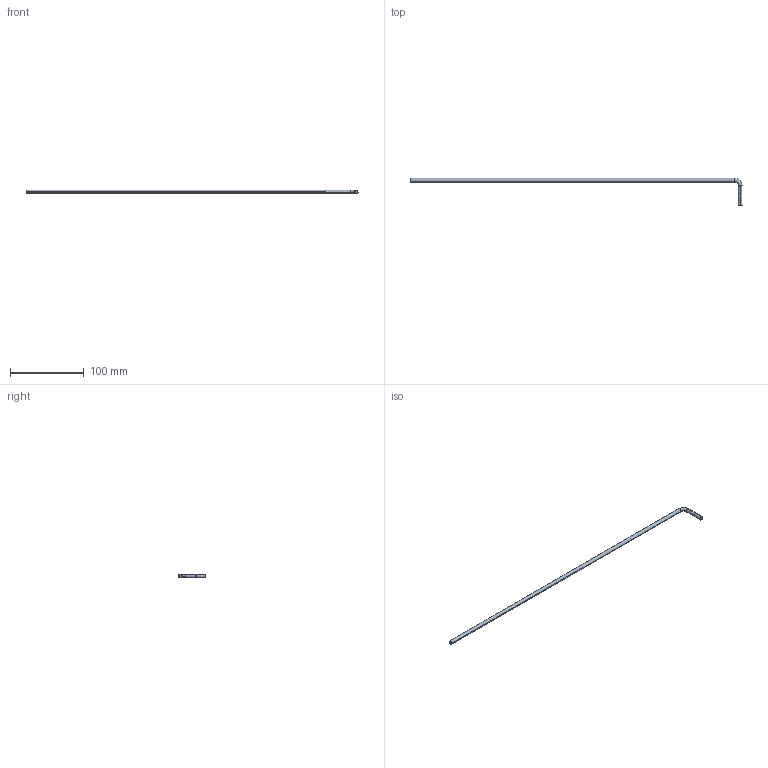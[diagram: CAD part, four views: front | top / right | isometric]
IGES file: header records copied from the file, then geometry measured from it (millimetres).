
Start section: SolidWorks IGES file using analytic representation for surfaces
Bounding box: 450 x 37 x 5 mm (x, y, z)
Surface area: 7573.9 mm2 (no closed solid volume)
Topology: 0 solids, 0 shells, 14 faces, 224 edges, 224 vertices
Faces by surface type: revolution 10, bspline 4
